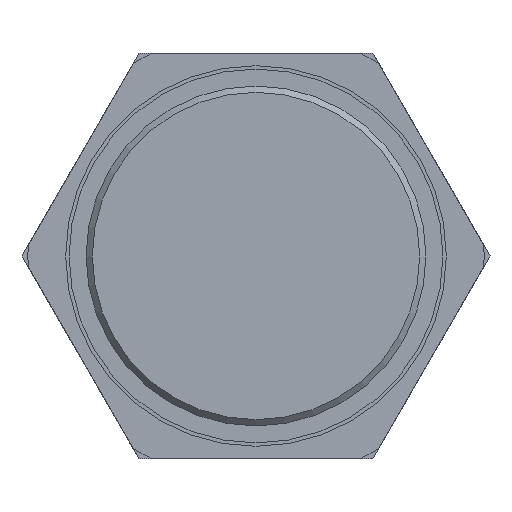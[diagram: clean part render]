
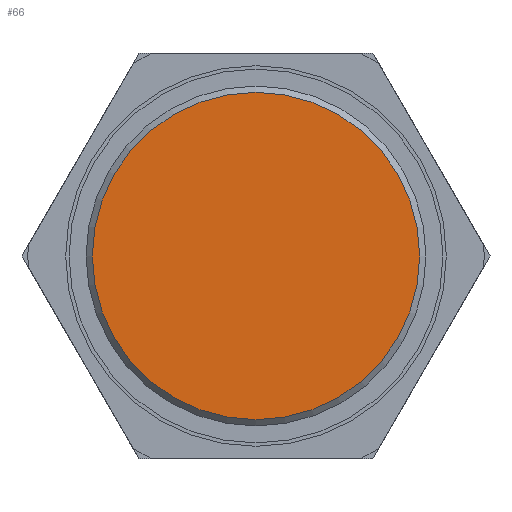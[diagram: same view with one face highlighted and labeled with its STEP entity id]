
A CAD part, front view. The second image highlights one B-rep face of the part: STEP entity #66.
In plain terms, the highlighted planar face has unit normal (0, -1, 0).
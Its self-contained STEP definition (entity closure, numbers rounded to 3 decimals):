
#66 = ADVANCED_FACE( '', ( #158 ), #159, .F. );
#158 = FACE_OUTER_BOUND( '', #281, .T. );
#159 = PLANE( '', #282 );
#281 = EDGE_LOOP( '', ( #409 ) );
#282 = AXIS2_PLACEMENT_3D( '', #410, #411, #412 );
#409 = ORIENTED_EDGE( '', *, *, #653, .T. );
#410 = CARTESIAN_POINT( '', ( 24.08, -18., 0. ) );
#411 = DIRECTION( '', ( 0., 1., 0. ) );
#412 = DIRECTION( '', ( 0., 0., 1. ) );
#653 = EDGE_CURVE( '', #754, #754, #755, .T. );
#754 = VERTEX_POINT( '', #904 );
#755 = CIRCLE( '', #905, 24.08 );
#904 = CARTESIAN_POINT( '', ( 0., -18., -24.08 ) );
#905 = AXIS2_PLACEMENT_3D( '', #1199, #1200, #1201 );
#1199 = CARTESIAN_POINT( '', ( 0., -18., 0. ) );
#1200 = DIRECTION( '', ( 0., -1., 0. ) );
#1201 = DIRECTION( '', ( 0., 0., -1. ) );
